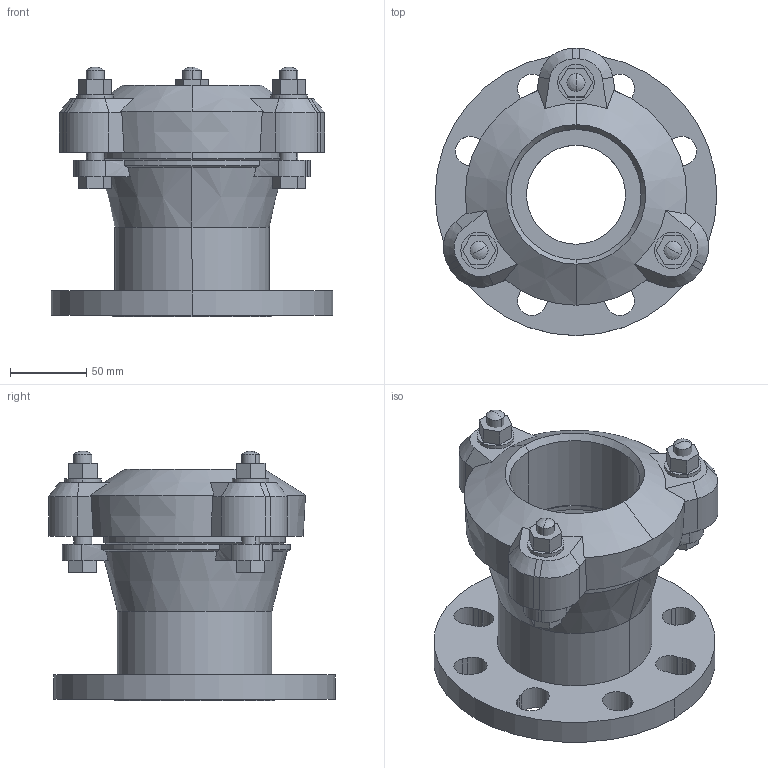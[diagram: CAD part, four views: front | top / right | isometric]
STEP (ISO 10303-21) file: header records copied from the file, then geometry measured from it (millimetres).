
FILE_DESCRIPTION((''),'2;1');
FILE_NAME('BIM_13199_3_ASM','2020-04-01T',('MReader'),(''),'CREO PARAMETRIC BY PTC INC, 2016130','CREO PARAMETRIC BY PTC INC, 2016130','');
FILE_SCHEMA(('CONFIG_CONTROL_DESIGN'));
Length unit declared in the file: millimetre
Products named in the file (4): BIM_13230_4; BIM_12996_SLEEVE; BIM_12996; BIM_13199_3_ASM
Assembly tree (3 placements, depth 2):
  BIM_13199_3_ASM
    BIM_13230_4
    BIM_12996_SLEEVE
    BIM_12996
Bounding box: 185 x 188.49 x 164 mm (x, y, z)
Volume: 1091703.8 mm3; surface area: 205909.3 mm2
Topology: 3 solids, 3 shells, 202 faces, 525 edges, 335 vertices
Faces by surface type: plane 94, cylinder 76, cone 26, sphere 6
Entity records: 6355 total; most frequent: CARTESIAN_POINT 1181, DIRECTION 1093, ORIENTED_EDGE 1038, EDGE_CURVE 519, AXIS2_PLACEMENT_3D 395, VERTEX_POINT 335, VECTOR 303, LINE 303
